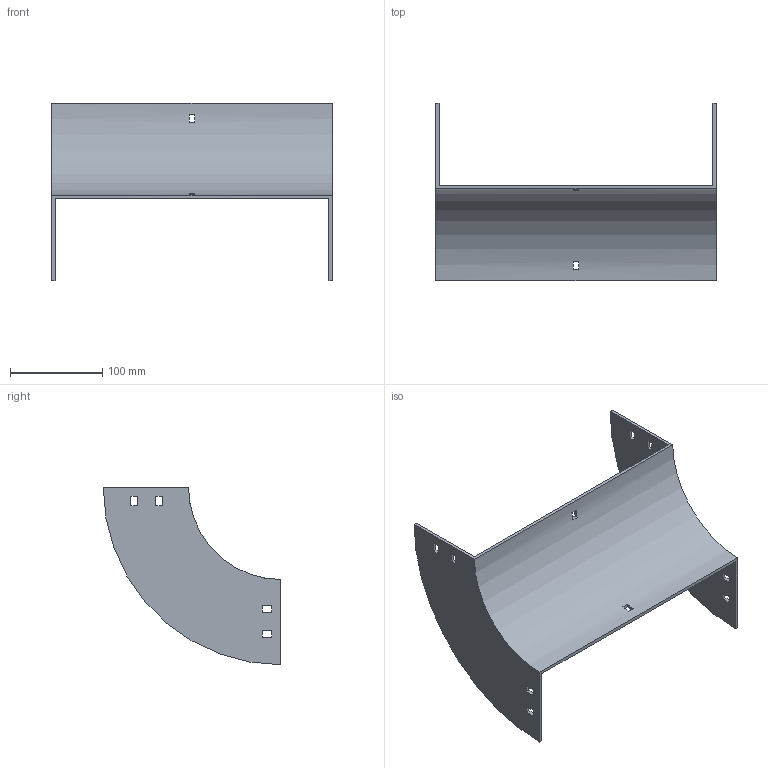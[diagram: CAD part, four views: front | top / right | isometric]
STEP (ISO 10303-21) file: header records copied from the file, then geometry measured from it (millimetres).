
FILE_DESCRIPTION (( 'STEP AP214' ), '1' );
FILE_NAME ('33B1I300.step', '2025-02-21T09:33:08', ( '' ), ( '' ), 'SwSTEP 2.0', 'SolidWorks 2023', '' );
FILE_SCHEMA (( 'AUTOMOTIVE_DESIGN' ));
Length unit declared in the file: millimetre
Products named in the file (1): 33B1I300
Bounding box: 304 x 192.5 x 192.5 mm (x, y, z)
Volume: 312516.1 mm3; surface area: 185224.1 mm2
Topology: 1 solids, 1 shells, 50 faces, 144 edges, 96 vertices
Faces by surface type: plane 46, cylinder 4
Entity records: 1687 total; most frequent: CARTESIAN_POINT 291, ORIENTED_EDGE 288, DIRECTION 262, EDGE_CURVE 144, LINE 128, VECTOR 128, VERTEX_POINT 96, EDGE_LOOP 70
